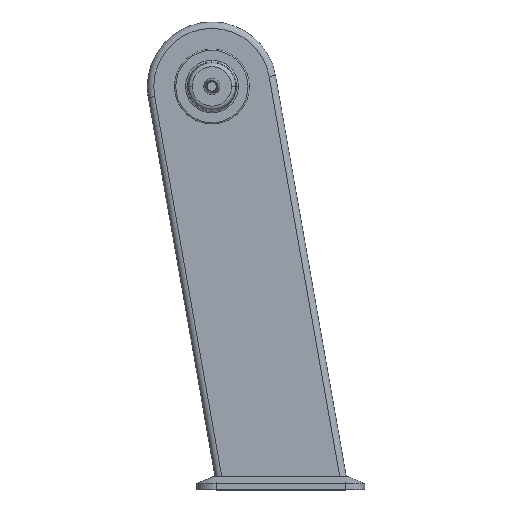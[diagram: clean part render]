
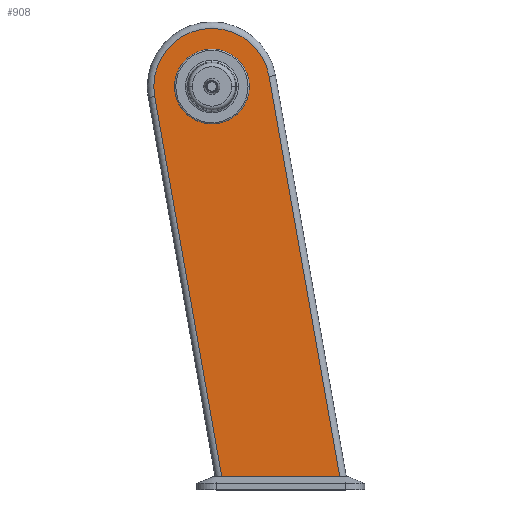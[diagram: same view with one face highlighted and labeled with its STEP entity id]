
A CAD part, top view. The second image highlights one B-rep face of the part: STEP entity #908.
In plain terms, the highlighted planar face has unit normal (0, 0, 1).
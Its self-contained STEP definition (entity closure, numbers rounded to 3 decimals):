
#20 = VECTOR ( 'NONE', #658, 1000. ) ;
#131 = CARTESIAN_POINT ( 'NONE',  ( 0., 0., 31.25 ) ) ;
#143 = LINE ( 'NONE', #830, #1625 ) ;
#190 = VECTOR ( 'NONE', #2062, 1000. ) ;
#319 = DIRECTION ( 'NONE',  ( 1., 0., 0. ) ) ;
#334 = FACE_OUTER_BOUND ( 'NONE', #1564, .T. ) ;
#346 = ORIENTED_EDGE ( 'NONE', *, *, #959, .T. ) ;
#377 = VERTEX_POINT ( 'NONE', #707 ) ;
#496 = VERTEX_POINT ( 'NONE', #1329 ) ;
#513 = CARTESIAN_POINT ( 'NONE',  ( 0., 0., 31.25 ) ) ;
#536 = LINE ( 'NONE', #1429, #20 ) ;
#622 = VERTEX_POINT ( 'NONE', #998 ) ;
#631 = DIRECTION ( 'NONE',  ( 0., 0., 1. ) ) ;
#658 = DIRECTION ( 'NONE',  ( 0.174, -0.985, 0. ) ) ;
#693 = ORIENTED_EDGE ( 'NONE', *, *, #2198, .F. ) ;
#698 = LINE ( 'NONE', #1865, #190 ) ;
#702 = DIRECTION ( 'NONE',  ( 0., 0., 1. ) ) ;
#707 = CARTESIAN_POINT ( 'NONE',  ( 88.633, 15.628, 31.25 ) ) ;
#775 = CIRCLE ( 'NONE', #1847, 58. ) ;
#784 = DIRECTION ( 'NONE',  ( 0., 0., 1. ) ) ;
#829 = AXIS2_PLACEMENT_3D ( 'NONE', #131, #1488, #319 ) ;
#830 = CARTESIAN_POINT ( 'NONE',  ( 88.633, 15.628, 31.25 ) ) ;
#908 = ADVANCED_FACE ( 'NONE', ( #334, #2388 ), #1660, .T. ) ;
#912 = EDGE_CURVE ( 'NONE', #377, #1357, #1843, .T. ) ;
#941 = ORIENTED_EDGE ( 'NONE', *, *, #912, .T. ) ;
#947 = VERTEX_POINT ( 'NONE', #2450 ) ;
#959 = EDGE_CURVE ( 'NONE', #947, #622, #698, .T. ) ;
#968 = AXIS2_PLACEMENT_3D ( 'NONE', #513, #702, #2049 ) ;
#998 = CARTESIAN_POINT ( 'NONE',  ( 198.066, -605., 31.25 ) ) ;
#1078 = VERTEX_POINT ( 'NONE', #1141 ) ;
#1127 = EDGE_CURVE ( 'NONE', #1078, #496, #1428, .T. ) ;
#1141 = CARTESIAN_POINT ( 'NONE',  ( 58., 0., 31.25 ) ) ;
#1165 = ORIENTED_EDGE ( 'NONE', *, *, #2241, .T. ) ;
#1304 = AXIS2_PLACEMENT_3D ( 'NONE', #1939, #784, #2126 ) ;
#1329 = CARTESIAN_POINT ( 'NONE',  ( -58., 0., 31.25 ) ) ;
#1357 = VERTEX_POINT ( 'NONE', #2106 ) ;
#1428 = CIRCLE ( 'NONE', #1304, 58. ) ;
#1429 = CARTESIAN_POINT ( 'NONE',  ( 18.51, -623.264, 31.25 ) ) ;
#1488 = DIRECTION ( 'NONE',  ( 0., 0., 1. ) ) ;
#1564 = EDGE_LOOP ( 'NONE', ( #2128, #346, #1165, #941 ) ) ;
#1625 = VECTOR ( 'NONE', #1803, 1000. ) ;
#1660 = PLANE ( 'NONE',  #968 ) ;
#1787 = CARTESIAN_POINT ( 'NONE',  ( 0., 0., 31.25 ) ) ;
#1803 = DIRECTION ( 'NONE',  ( -0.174, 0.985, 0. ) ) ;
#1843 = CIRCLE ( 'NONE', #829, 90. ) ;
#1847 = AXIS2_PLACEMENT_3D ( 'NONE', #1787, #631, #1974 ) ;
#1865 = CARTESIAN_POINT ( 'NONE',  ( 0., -605., 31.25 ) ) ;
#1939 = CARTESIAN_POINT ( 'NONE',  ( 0., 0., 31.25 ) ) ;
#1974 = DIRECTION ( 'NONE',  ( 1., 0., 0. ) ) ;
#1978 = EDGE_LOOP ( 'NONE', ( #2434, #693 ) ) ;
#2049 = DIRECTION ( 'NONE',  ( 1., 0., 0. ) ) ;
#2062 = DIRECTION ( 'NONE',  ( 1., 0., 0. ) ) ;
#2106 = CARTESIAN_POINT ( 'NONE',  ( -88.633, -15.628, 31.25 ) ) ;
#2126 = DIRECTION ( 'NONE',  ( 1., 0., 0. ) ) ;
#2128 = ORIENTED_EDGE ( 'NONE', *, *, #2295, .T. ) ;
#2198 = EDGE_CURVE ( 'NONE', #496, #1078, #775, .T. ) ;
#2241 = EDGE_CURVE ( 'NONE', #622, #377, #143, .T. ) ;
#2295 = EDGE_CURVE ( 'NONE', #1357, #947, #536, .T. ) ;
#2388 = FACE_BOUND ( 'NONE', #1978, .T. ) ;
#2434 = ORIENTED_EDGE ( 'NONE', *, *, #1127, .F. ) ;
#2450 = CARTESIAN_POINT ( 'NONE',  ( 15.289, -605., 31.25 ) ) ;
